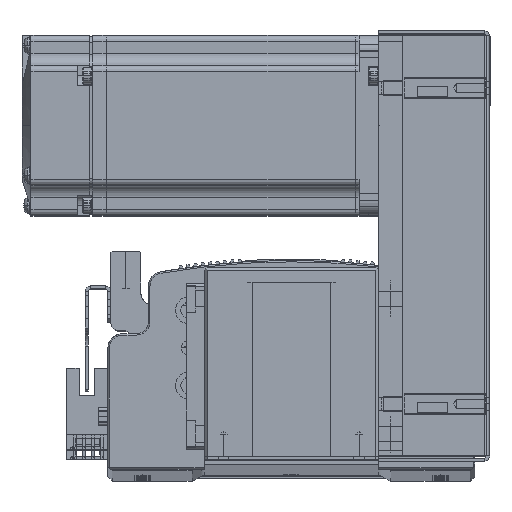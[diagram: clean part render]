
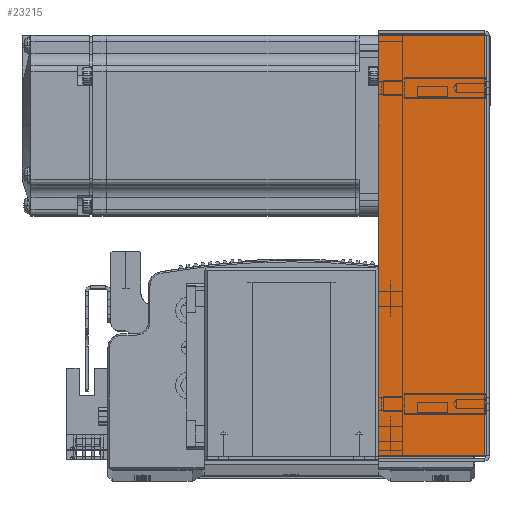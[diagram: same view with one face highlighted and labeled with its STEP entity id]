
A CAD part, top view. The second image highlights one B-rep face of the part: STEP entity #23215.
In plain terms, the highlighted planar face has unit normal (0, 0, 1) as drawn and (0, 0, -1) by its records, which use the part's own axes.
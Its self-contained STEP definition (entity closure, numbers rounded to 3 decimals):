
#14900 = CARTESIAN_POINT ( 'NONE',  ( -69.793, 0.737, -33.5 ) ) ;
#14945 = CARTESIAN_POINT ( 'NONE',  ( 69.793, 0.737, -33.5 ) ) ;
#14993 = CARTESIAN_POINT ( 'NONE',  ( 69.793, 36., -33.5 ) ) ;
#15236 = CARTESIAN_POINT ( 'NONE',  ( -69.793, 36., -33.5 ) ) ;
#17745 = AXIS2_PLACEMENT_3D ( 'NONE', #68653, #68612, #68585 ) ;
#23215 = ADVANCED_FACE ( 'NONE', ( #38143 ), #68530, .F. ) ;
#30393 = LINE ( 'NONE', #54366, #30477 ) ;
#30397 = LINE ( 'NONE', #54357, #30484 ) ;
#30477 = VECTOR ( 'NONE', #54365, 1000. ) ;
#30484 = VECTOR ( 'NONE', #54361, 1000. ) ;
#30537 = LINE ( 'NONE', #54505, #30539 ) ;
#30539 = VECTOR ( 'NONE', #54504, 1000. ) ;
#30582 = LINE ( 'NONE', #54525, #30584 ) ;
#30584 = VECTOR ( 'NONE', #54530, 1000. ) ;
#38143 = FACE_OUTER_BOUND ( 'NONE', #95415, .T. ) ;
#50643 = EDGE_CURVE ( 'NONE', #86402, #86484, #30397, .T. ) ;
#50647 = EDGE_CURVE ( 'NONE', #86468, #86402, #30393, .T. ) ;
#50672 = EDGE_CURVE ( 'NONE', #86468, #86440, #30537, .T. ) ;
#50681 = EDGE_CURVE ( 'NONE', #86440, #86484, #30582, .T. ) ;
#54357 = CARTESIAN_POINT ( 'NONE',  ( 0., 36., -33.5 ) ) ;
#54361 = DIRECTION ( 'NONE',  ( 1., 0., 0. ) ) ;
#54365 = DIRECTION ( 'NONE',  ( 0., 1., 0. ) ) ;
#54366 = CARTESIAN_POINT ( 'NONE',  ( -69.793, 0., -33.5 ) ) ;
#54504 = DIRECTION ( 'NONE',  ( 1., 0., 0. ) ) ;
#54505 = CARTESIAN_POINT ( 'NONE',  ( 71.5, 0.737, -33.5 ) ) ;
#54525 = CARTESIAN_POINT ( 'NONE',  ( 69.793, 0., -33.5 ) ) ;
#54530 = DIRECTION ( 'NONE',  ( 0., 1., 0. ) ) ;
#61244 = ORIENTED_EDGE ( 'NONE', *, *, #50681, .F. ) ;
#61245 = ORIENTED_EDGE ( 'NONE', *, *, #50643, .T. ) ;
#61248 = ORIENTED_EDGE ( 'NONE', *, *, #50647, .T. ) ;
#61548 = ORIENTED_EDGE ( 'NONE', *, *, #50672, .F. ) ;
#68530 = PLANE ( 'NONE',  #17745 ) ;
#68585 = DIRECTION ( 'NONE',  ( 0., -1., 0. ) ) ;
#68612 = DIRECTION ( 'NONE',  ( 0., 0., 1. ) ) ;
#68653 = CARTESIAN_POINT ( 'NONE',  ( 0., 0., -33.5 ) ) ;
#86402 = VERTEX_POINT ( 'NONE', #15236 ) ;
#86440 = VERTEX_POINT ( 'NONE', #14945 ) ;
#86468 = VERTEX_POINT ( 'NONE', #14900 ) ;
#86484 = VERTEX_POINT ( 'NONE', #14993 ) ;
#95415 = EDGE_LOOP ( 'NONE', ( #61548, #61248, #61245, #61244 ) ) ;
